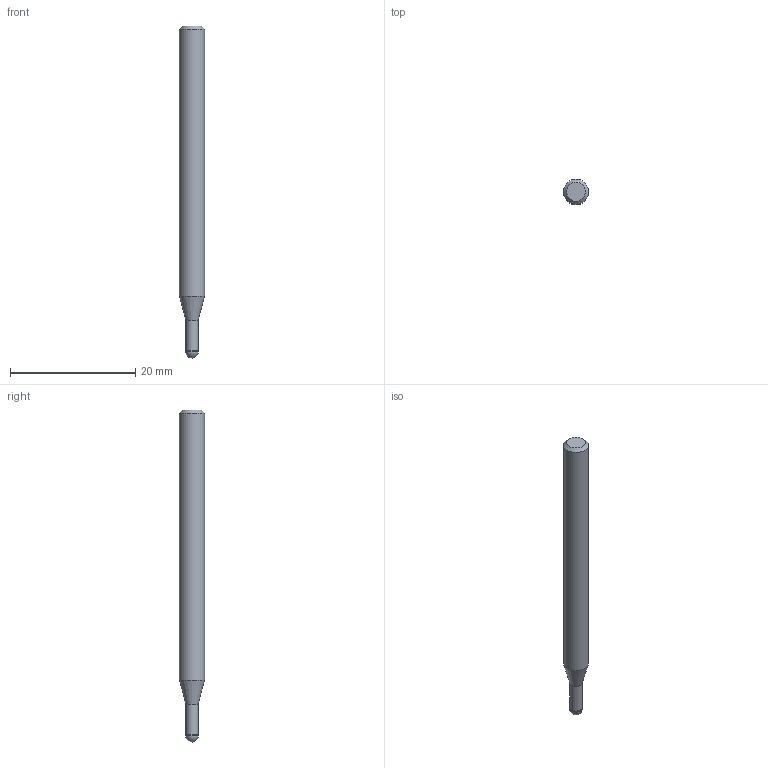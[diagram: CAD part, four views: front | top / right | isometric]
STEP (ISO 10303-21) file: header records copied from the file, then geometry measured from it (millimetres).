
FILE_DESCRIPTION((''),'2;1');
FILE_NAME('C:\Users\nsx150\AppData\Local\Temp\Mastercam 2021\LJSIDMOTM8\TEMP.step','2021-08-03T14:24:14',(''),(''),'STEP Write','Mastercam 2021 ... CNC Software, Inc.','');
FILE_SCHEMA(('AUTOMOTIVE_DESIGN'));
Length unit declared in the file: millimetre
Products named in the file (1): None
Bounding box: 4 x 4 x 53 mm (x, y, z)
Volume: 585.5 mm3; surface area: 630.9 mm2
Topology: 2 solids, 2 shells, 9 faces, 14 edges, 8 vertices
Faces by surface type: plane 3, cylinder 3, cone 2, sphere 1
Full cylindrical faces by diameter (mm): 1.94 x1, 2 x1, 4 x1
Entity records: 211 total; most frequent: DIRECTION 36, CARTESIAN_POINT 25, AXIS2_PLACEMENT_3D 18, ORIENTED_EDGE 14, EDGE_LOOP 14, STYLED_ITEM 12, ADVANCED_FACE 9, FACE_BOUND 8
